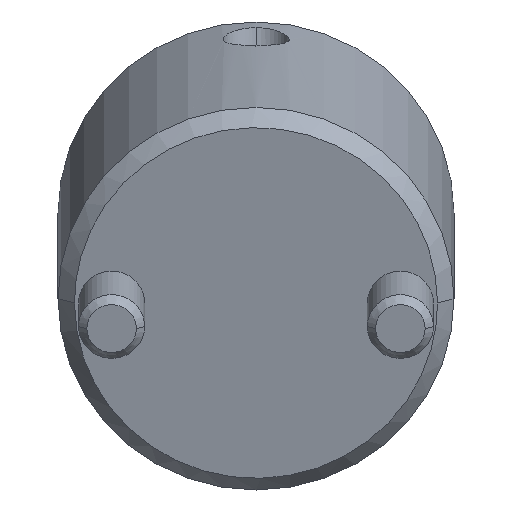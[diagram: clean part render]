
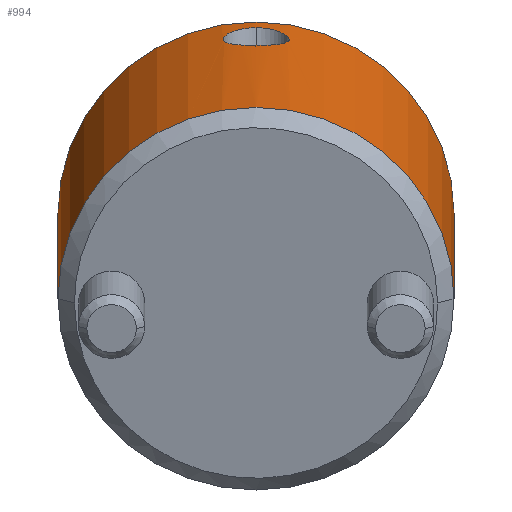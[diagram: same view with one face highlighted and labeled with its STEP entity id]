
A CAD part, front view. The second image highlights one B-rep face of the part: STEP entity #994.
In plain terms, the highlighted cylindrical face has radius 12 mm (diameter 24 mm), a partial arc.
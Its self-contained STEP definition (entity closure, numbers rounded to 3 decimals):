
#760=CARTESIAN_POINT('Vertex',(0.,12.,1.)) ;
#763=CARTESIAN_POINT('Axis2P3D Location',(0.,0.,1.)) ;
#767=CARTESIAN_POINT('Vertex',(0.,-12.,1.)) ;
#907=CARTESIAN_POINT('Axis2P3D Location',(0.,0.,-1.1)) ;
#912=CARTESIAN_POINT('Line Origine',(0.,12.,-1.1)) ;
#916=CARTESIAN_POINT('Vertex',(0.,12.,21.)) ;
#919=CARTESIAN_POINT('Axis2P3D Location',(0.,0.,21.)) ;
#923=CARTESIAN_POINT('Vertex',(0.,-12.,21.)) ;
#926=CARTESIAN_POINT('Line Origine',(0.,-12.,-1.1)) ;
#938=CARTESIAN_POINT('Control Point',(12.,0.,19.674)) ;
#939=CARTESIAN_POINT('Control Point',(12.,0.342,19.674)) ;
#940=CARTESIAN_POINT('Control Point',(11.988,0.675,19.596)) ;
#941=CARTESIAN_POINT('Control Point',(11.964,0.993,19.44)) ;
#942=CARTESIAN_POINT('Control Point',(11.923,1.377,19.137)) ;
#943=CARTESIAN_POINT('Control Point',(11.885,1.661,18.739)) ;
#944=CARTESIAN_POINT('Control Point',(11.874,1.735,18.615)) ;
#945=CARTESIAN_POINT('Control Point',(11.855,1.861,18.357)) ;
#946=CARTESIAN_POINT('Control Point',(11.842,1.943,18.08)) ;
#947=CARTESIAN_POINT('Control Point',(11.837,1.974,17.937)) ;
#948=CARTESIAN_POINT('Control Point',(11.831,2.01,17.654)) ;
#949=CARTESIAN_POINT('Control Point',(11.832,1.999,17.37)) ;
#950=CARTESIAN_POINT('Control Point',(11.835,1.981,17.229)) ;
#951=CARTESIAN_POINT('Control Point',(11.845,1.924,16.953)) ;
#952=CARTESIAN_POINT('Control Point',(11.861,1.822,16.694)) ;
#953=CARTESIAN_POINT('Control Point',(11.87,1.76,16.57)) ;
#954=CARTESIAN_POINT('Control Point',(11.909,1.492,16.13)) ;
#955=CARTESIAN_POINT('Control Point',(11.956,1.093,15.79)) ;
#956=CARTESIAN_POINT('Control Point',(11.985,0.743,15.618)) ;
#957=CARTESIAN_POINT('Control Point',(12.,0.376,15.533)) ;
#958=CARTESIAN_POINT('Control Point',(12.,0.,15.533)) ;
#959=CARTESIAN_POINT('Vertex',(12.,0.,19.674)) ;
#961=CARTESIAN_POINT('Vertex',(12.,0.,15.533)) ;
#965=CARTESIAN_POINT('Control Point',(12.,0.,15.533)) ;
#966=CARTESIAN_POINT('Control Point',(12.,-0.139,15.533)) ;
#967=CARTESIAN_POINT('Control Point',(11.998,-0.276,15.544)) ;
#968=CARTESIAN_POINT('Control Point',(11.994,-0.413,15.568)) ;
#969=CARTESIAN_POINT('Control Point',(11.982,-0.68,15.638)) ;
#970=CARTESIAN_POINT('Control Point',(11.965,-0.932,15.753)) ;
#971=CARTESIAN_POINT('Control Point',(11.955,-1.053,15.822)) ;
#972=CARTESIAN_POINT('Control Point',(11.933,-1.281,15.979)) ;
#973=CARTESIAN_POINT('Control Point',(11.909,-1.477,16.172)) ;
#974=CARTESIAN_POINT('Control Point',(11.898,-1.566,16.277)) ;
#975=CARTESIAN_POINT('Control Point',(11.864,-1.81,16.618)) ;
#976=CARTESIAN_POINT('Control Point',(11.839,-1.959,17.013)) ;
#977=CARTESIAN_POINT('Control Point',(11.83,-2.013,17.296)) ;
#978=CARTESIAN_POINT('Control Point',(11.829,-2.021,17.726)) ;
#979=CARTESIAN_POINT('Control Point',(11.844,-1.926,18.144)) ;
#980=CARTESIAN_POINT('Control Point',(11.851,-1.883,18.282)) ;
#981=CARTESIAN_POINT('Control Point',(11.869,-1.775,18.549)) ;
#982=CARTESIAN_POINT('Control Point',(11.89,-1.624,18.795)) ;
#983=CARTESIAN_POINT('Control Point',(11.902,-1.538,18.912)) ;
#984=CARTESIAN_POINT('Control Point',(11.938,-1.246,19.247)) ;
#985=CARTESIAN_POINT('Control Point',(11.972,-0.876,19.494)) ;
#986=CARTESIAN_POINT('Control Point',(11.991,-0.596,19.613)) ;
#987=CARTESIAN_POINT('Control Point',(12.,-0.302,19.674)) ;
#988=CARTESIAN_POINT('Control Point',(12.,0.,19.674)) ;
#764=DIRECTION('Axis2P3D Direction',(0.,0.,1.)) ;
#908=DIRECTION('Axis2P3D Direction',(0.,-0.,1.)) ;
#909=DIRECTION('Axis2P3D XDirection',(0.,-1.,0.)) ;
#913=DIRECTION('Vector Direction',(0.,0.,1.)) ;
#920=DIRECTION('Axis2P3D Direction',(0.,-0.,1.)) ;
#927=DIRECTION('Vector Direction',(0.,0.,1.)) ;
#765=AXIS2_PLACEMENT_3D('Circle Axis2P3D',#763,#764,$) ;
#910=AXIS2_PLACEMENT_3D('Cylinder Axis2P3D',#907,#908,#909) ;
#921=AXIS2_PLACEMENT_3D('Circle Axis2P3D',#919,#920,$) ;
#932=ORIENTED_EDGE('',*,*,#918,.F.) ;
#933=ORIENTED_EDGE('',*,*,#925,.T.) ;
#934=ORIENTED_EDGE('',*,*,#930,.T.) ;
#935=ORIENTED_EDGE('',*,*,#769,.F.) ;
#991=ORIENTED_EDGE('',*,*,#963,.T.) ;
#992=ORIENTED_EDGE('',*,*,#989,.T.) ;
#993=FACE_BOUND('',#990,.T.) ;
#914=VECTOR('Line Direction',#913,1.) ;
#928=VECTOR('Line Direction',#927,1.) ;
#994=ADVANCED_FACE('MANIFOLD_SOLID_BREP #1094',(#936,#993),#911,.T.) ;
#937=B_SPLINE_CURVE_WITH_KNOTS('',5,(#938,#939,#940,#941,#942,#943,#944,#945,#946,#947,#948,#949,#950,#951,#952,#953,#954,#955,#956,#957,#958),.UNSPECIFIED.,.F.,.U.,(6,3,3,3,3,3,6),(0.,2.418,3.432,4.439,5.429,6.409,9.064),.UNSPECIFIED.) ;
#964=B_SPLINE_CURVE_WITH_KNOTS('',5,(#965,#966,#967,#968,#969,#970,#971,#972,#973,#974,#975,#976,#977,#978,#979,#980,#981,#982,#983,#984,#985,#986,#987,#988),.UNSPECIFIED.,.F.,.U.,(6,3,3,3,3,3,3,6),(0.,0.981,1.96,2.939,4.919,5.933,6.943,9.071),.UNSPECIFIED.) ;
#766=CIRCLE('generated circle',#765,12.) ;
#922=CIRCLE('generated circle',#921,12.) ;
#911=CYLINDRICAL_SURFACE('generated cylinder',#910,12.) ;
#769=EDGE_CURVE('',#761,#768,#766,.F.) ;
#918=EDGE_CURVE('',#917,#761,#915,.F.) ;
#925=EDGE_CURVE('',#917,#924,#922,.F.) ;
#930=EDGE_CURVE('',#924,#768,#929,.F.) ;
#963=EDGE_CURVE('',#960,#962,#937,.T.) ;
#989=EDGE_CURVE('',#962,#960,#964,.T.) ;
#931=EDGE_LOOP('',(#932,#933,#934,#935)) ;
#990=EDGE_LOOP('',(#991,#992)) ;
#936=FACE_OUTER_BOUND('',#931,.T.) ;
#915=LINE('Line',#912,#914) ;
#929=LINE('Line',#926,#928) ;
#761=VERTEX_POINT('',#760) ;
#768=VERTEX_POINT('',#767) ;
#917=VERTEX_POINT('',#916) ;
#924=VERTEX_POINT('',#923) ;
#960=VERTEX_POINT('',#959) ;
#962=VERTEX_POINT('',#961) ;
